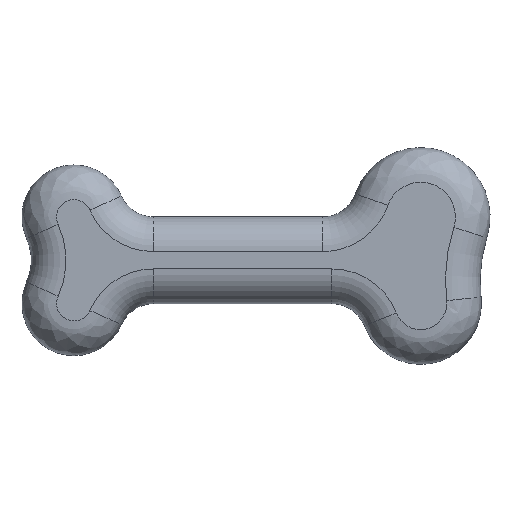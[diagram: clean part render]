
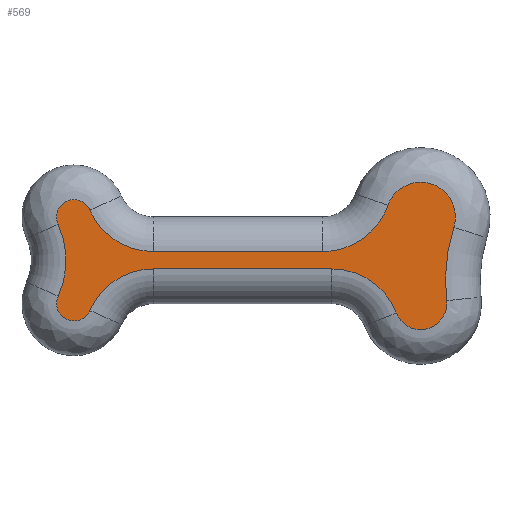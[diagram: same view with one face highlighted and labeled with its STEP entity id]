
A CAD part, top view. The second image highlights one B-rep face of the part: STEP entity #569.
In plain terms, the highlighted planar face has unit normal (0, 0, 1).
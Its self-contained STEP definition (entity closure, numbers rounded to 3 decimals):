
#17=PLANE('',#677);
#40=LINE('',#1070,#60);
#41=LINE('',#1122,#61);
#60=VECTOR('',#812,10.);
#61=VECTOR('',#843,10.);
#117=FACE_OUTER_BOUND('',#155,.T.);
#155=EDGE_LOOP('',(#505,#506,#507,#508,#509,#510,#511,#512,#513,#514,#515,
#516));
#195=CIRCLE('',#639,4.);
#200=CIRCLE('',#646,4.);
#202=CIRCLE('',#648,2.);
#204=CIRCLE('',#651,10.25);
#206=CIRCLE('',#653,1.5);
#208=CIRCLE('',#656,4.);
#212=CIRCLE('',#662,4.);
#215=CIRCLE('',#665,1.);
#218=CIRCLE('',#669,5.);
#219=CIRCLE('',#670,1.);
#253=VERTEX_POINT('',#1059);
#254=VERTEX_POINT('',#1061);
#256=VERTEX_POINT('',#1067);
#257=VERTEX_POINT('',#1072);
#258=VERTEX_POINT('',#1090);
#259=VERTEX_POINT('',#1094);
#260=VERTEX_POINT('',#1112);
#261=VERTEX_POINT('',#1116);
#262=VERTEX_POINT('',#1120);
#263=VERTEX_POINT('',#1124);
#265=VERTEX_POINT('',#1150);
#267=VERTEX_POINT('',#1156);
#319=EDGE_CURVE('',#253,#254,#195,.T.);
#324=EDGE_CURVE('',#254,#256,#40,.T.);
#326=EDGE_CURVE('',#256,#257,#200,.T.);
#328=EDGE_CURVE('',#257,#258,#202,.T.);
#330=EDGE_CURVE('',#258,#259,#204,.T.);
#332=EDGE_CURVE('',#259,#260,#206,.T.);
#334=EDGE_CURVE('',#260,#261,#208,.T.);
#336=EDGE_CURVE('',#261,#262,#41,.T.);
#339=EDGE_CURVE('',#262,#263,#212,.T.);
#342=EDGE_CURVE('',#263,#265,#215,.T.);
#345=EDGE_CURVE('',#265,#267,#218,.T.);
#346=EDGE_CURVE('',#267,#253,#219,.T.);
#505=ORIENTED_EDGE('',*,*,#319,.F.);
#506=ORIENTED_EDGE('',*,*,#346,.F.);
#507=ORIENTED_EDGE('',*,*,#345,.F.);
#508=ORIENTED_EDGE('',*,*,#342,.F.);
#509=ORIENTED_EDGE('',*,*,#339,.F.);
#510=ORIENTED_EDGE('',*,*,#336,.F.);
#511=ORIENTED_EDGE('',*,*,#334,.F.);
#512=ORIENTED_EDGE('',*,*,#332,.F.);
#513=ORIENTED_EDGE('',*,*,#330,.F.);
#514=ORIENTED_EDGE('',*,*,#328,.F.);
#515=ORIENTED_EDGE('',*,*,#326,.F.);
#516=ORIENTED_EDGE('',*,*,#324,.F.);
#569=ADVANCED_FACE('',(#117),#17,.T.);
#639=AXIS2_PLACEMENT_3D('',#1062,#801,#802);
#646=AXIS2_PLACEMENT_3D('',#1074,#817,#818);
#648=AXIS2_PLACEMENT_3D('',#1092,#821,#822);
#651=AXIS2_PLACEMENT_3D('',#1096,#827,#828);
#653=AXIS2_PLACEMENT_3D('',#1114,#831,#832);
#656=AXIS2_PLACEMENT_3D('',#1118,#837,#838);
#662=AXIS2_PLACEMENT_3D('',#1128,#850,#851);
#665=AXIS2_PLACEMENT_3D('',#1154,#856,#857);
#669=AXIS2_PLACEMENT_3D('',#1160,#864,#865);
#670=AXIS2_PLACEMENT_3D('',#1182,#866,#867);
#677=AXIS2_PLACEMENT_3D('',#1194,#885,#886);
#801=DIRECTION('center_axis',(0.,0.,1.));
#802=DIRECTION('ref_axis',(-0.548,-0.837,0.));
#812=DIRECTION('',(1.,0.,0.));
#817=DIRECTION('center_axis',(0.,0.,1.));
#818=DIRECTION('ref_axis',(0.577,-0.816,0.));
#821=DIRECTION('center_axis',(0.,0.,-1.));
#822=DIRECTION('ref_axis',(0.318,0.948,0.));
#827=DIRECTION('center_axis',(0.,0.,1.));
#828=DIRECTION('ref_axis',(-0.995,0.098,0.));
#831=DIRECTION('center_axis',(0.,0.,-1.));
#832=DIRECTION('ref_axis',(0.239,-0.971,0.));
#837=DIRECTION('center_axis',(0.,0.,1.));
#838=DIRECTION('ref_axis',(0.564,0.826,0.));
#843=DIRECTION('',(-1.,0.,0.));
#850=DIRECTION('center_axis',(0.,0.,1.));
#851=DIRECTION('ref_axis',(-0.548,0.837,0.));
#856=DIRECTION('center_axis',(0.,0.,-1.));
#857=DIRECTION('ref_axis',(-0.408,-0.913,0.));
#864=DIRECTION('center_axis',(0.,0.,1.));
#865=DIRECTION('ref_axis',(1.,0.,0.));
#866=DIRECTION('center_axis',(0.,0.,-1.));
#867=DIRECTION('ref_axis',(-0.408,0.913,0.));
#885=DIRECTION('center_axis',(0.,0.,1.));
#886=DIRECTION('ref_axis',(1.,0.,0.));
#1059=CARTESIAN_POINT('',(-9.083,2.9,5.));
#1061=CARTESIAN_POINT('',(-5.417,0.5,5.));
#1062=CARTESIAN_POINT('Origin',(-5.417,4.5,5.));
#1067=CARTESIAN_POINT('',(4.343,0.5,5.));
#1070=CARTESIAN_POINT('',(3.25,0.5,5.));
#1072=CARTESIAN_POINT('',(8.114,3.167,5.));
#1074=CARTESIAN_POINT('Origin',(4.343,4.5,5.));
#1090=CARTESIAN_POINT('',(11.907,1.896,5.));
#1092=CARTESIAN_POINT('Origin',(10.,2.5,5.));
#1094=CARTESIAN_POINT('',(11.491,-2.334,5.));
#1096=CARTESIAN_POINT('Origin',(21.678,-1.2,5.));
#1112=CARTESIAN_POINT('',(8.603,-3.045,5.));
#1114=CARTESIAN_POINT('Origin',(10.,-2.5,5.));
#1116=CARTESIAN_POINT('',(4.877,-0.5,5.));
#1118=CARTESIAN_POINT('Origin',(4.877,-4.5,5.));
#1120=CARTESIAN_POINT('',(-5.417,-0.5,5.));
#1122=CARTESIAN_POINT('',(-3.25,-0.5,5.));
#1124=CARTESIAN_POINT('',(-9.083,-2.9,5.));
#1128=CARTESIAN_POINT('Origin',(-5.417,-4.5,5.));
#1150=CARTESIAN_POINT('',(-10.909,-2.083,5.));
#1154=CARTESIAN_POINT('Origin',(-10.,-2.5,5.));
#1156=CARTESIAN_POINT('',(-10.909,2.083,5.));
#1160=CARTESIAN_POINT('Origin',(-15.454,0.,
5.));
#1182=CARTESIAN_POINT('Origin',(-10.,2.5,5.));
#1194=CARTESIAN_POINT('Origin',(0.5,0.25,5.));
